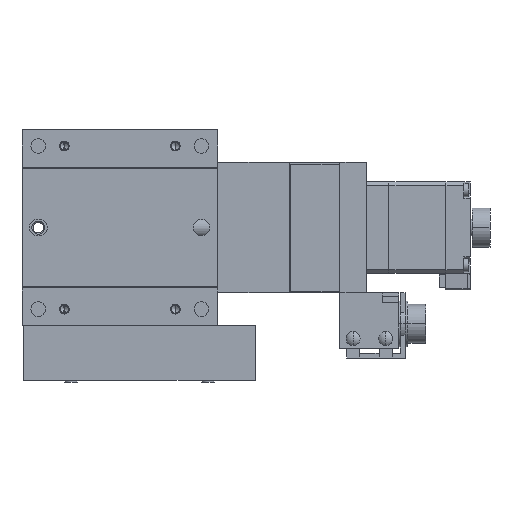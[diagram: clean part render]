
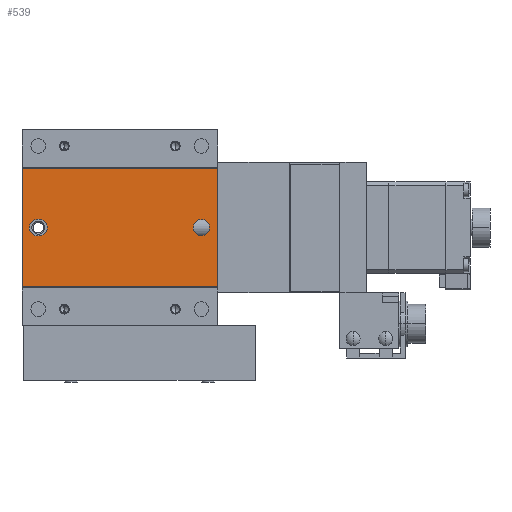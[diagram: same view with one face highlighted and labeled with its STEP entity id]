
A CAD part, front view. The second image highlights one B-rep face of the part: STEP entity #539.
In plain terms, the highlighted planar face has unit normal (0, -1, 0).
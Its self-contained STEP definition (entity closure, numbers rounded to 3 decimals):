
#539=ADVANCED_FACE('',(#1439,#1440,#1441),#1442,.F.);
#1439=FACE_BOUND('',#2816,.T.);
#1440=FACE_OUTER_BOUND('',#2817,.T.);
#1441=FACE_BOUND('',#2818,.T.);
#1442=PLANE('',#2819);
#2816=EDGE_LOOP('',(#5470,#5471,#5472,#5473));
#2817=EDGE_LOOP('',(#5474,#5475,#5476,#5477));
#2818=EDGE_LOOP('',(#5478,#5479,#5480));
#2819=AXIS2_PLACEMENT_3D('',#5481,#5482,#5483);
#5470=ORIENTED_EDGE('',*,*,#9508,.F.);
#5471=ORIENTED_EDGE('',*,*,#9509,.F.);
#5472=ORIENTED_EDGE('',*,*,#9510,.F.);
#5473=ORIENTED_EDGE('',*,*,#9511,.F.);
#5474=ORIENTED_EDGE('',*,*,#9493,.T.);
#5475=ORIENTED_EDGE('',*,*,#9512,.F.);
#5476=ORIENTED_EDGE('',*,*,#9513,.F.);
#5477=ORIENTED_EDGE('',*,*,#9514,.T.);
#5478=ORIENTED_EDGE('',*,*,#9398,.F.);
#5479=ORIENTED_EDGE('',*,*,#9397,.F.);
#5480=ORIENTED_EDGE('',*,*,#9515,.F.);
#5481=CARTESIAN_POINT('',(30.0,0.35,18.15));
#5482=DIRECTION('',(-0.0,1.0,0.));
#5483=DIRECTION('',(1.0,0.0,0.0));
#9397=EDGE_CURVE('',#11339,#11341,#11342,.F.);
#9398=EDGE_CURVE('',#11341,#11335,#11343,.F.);
#9493=EDGE_CURVE('',#11520,#11518,#11521,.T.);
#9508=EDGE_CURVE('',#11548,#11549,#11550,.F.);
#9509=EDGE_CURVE('',#11551,#11548,#11552,.T.);
#9510=EDGE_CURVE('',#11553,#11551,#11554,.F.);
#9511=EDGE_CURVE('',#11549,#11553,#11555,.T.);
#9512=EDGE_CURVE('',#11556,#11518,#11557,.T.);
#9513=EDGE_CURVE('',#11558,#11556,#11559,.T.);
#9514=EDGE_CURVE('',#11558,#11520,#11560,.T.);
#9515=EDGE_CURVE('',#11335,#11339,#11561,.F.);
#11335=VERTEX_POINT('',#14312);
#11339=VERTEX_POINT('',#14317);
#11341=VERTEX_POINT('',#14320);
#11342=CIRCLE('',#14321,2.5);
#11343=CIRCLE('',#14322,2.5);
#11518=VERTEX_POINT('',#14552);
#11520=VERTEX_POINT('',#14555);
#11521=LINE('',#14556,#14557);
#11548=VERTEX_POINT('',#14598);
#11549=VERTEX_POINT('',#14599);
#11550=CIRCLE('',#14600,2.5);
#11551=VERTEX_POINT('',#14601);
#11552=LINE('',#14602,#14603);
#11553=VERTEX_POINT('',#14604);
#11554=CIRCLE('',#14605,2.5);
#11555=LINE('',#14606,#14607);
#11556=VERTEX_POINT('',#14608);
#11557=LINE('',#14609,#14610);
#11558=VERTEX_POINT('',#14611);
#11559=LINE('',#14612,#14613);
#11560=LINE('',#14614,#14615);
#11561=CIRCLE('',#14616,2.5);
#14312=CARTESIAN_POINT('',(22.5,0.35,0.));
#14317=CARTESIAN_POINT('',(27.5,0.35,0.));
#14320=CARTESIAN_POINT('',(25.0,0.35,2.5));
#14321=AXIS2_PLACEMENT_3D('',#17903,#17904,#17905);
#14322=AXIS2_PLACEMENT_3D('',#17906,#17907,#17908);
#14552=CARTESIAN_POINT('',(-30.0,0.35,-18.15));
#14555=CARTESIAN_POINT('',(-30.0,0.35,18.15));
#14556=CARTESIAN_POINT('',(-30.0,0.35,18.15));
#14557=VECTOR('',#18079,1000.0);
#14598=CARTESIAN_POINT('',(-25.25,0.35,2.5));
#14599=CARTESIAN_POINT('',(-25.25,0.35,-2.5));
#14600=AXIS2_PLACEMENT_3D('',#18094,#18095,#18096);
#14601=CARTESIAN_POINT('',(-24.75,0.35,2.5));
#14602=CARTESIAN_POINT('',(30.0,0.35,2.5));
#14603=VECTOR('',#18097,1000.0);
#14604=CARTESIAN_POINT('',(-24.75,0.35,-2.5));
#14605=AXIS2_PLACEMENT_3D('',#18098,#18099,#18100);
#14606=CARTESIAN_POINT('',(30.0,0.35,-2.5));
#14607=VECTOR('',#18101,1000.0);
#14608=CARTESIAN_POINT('',(30.0,0.35,-18.15));
#14609=CARTESIAN_POINT('',(30.0,0.35,-18.15));
#14610=VECTOR('',#18102,1000.0);
#14611=CARTESIAN_POINT('',(30.0,0.35,18.15));
#14612=CARTESIAN_POINT('',(30.0,0.35,18.15));
#14613=VECTOR('',#18103,1000.0);
#14614=CARTESIAN_POINT('',(30.0,0.35,18.15));
#14615=VECTOR('',#18104,1000.0);
#14616=AXIS2_PLACEMENT_3D('',#18105,#18106,#18107);
#17903=CARTESIAN_POINT('',(25.0,0.35,0.0));
#17904=DIRECTION('',(0.0,1.0,0.));
#17905=DIRECTION('',(0.0,0.,1.0));
#17906=CARTESIAN_POINT('',(25.0,0.35,0.0));
#17907=DIRECTION('',(0.0,1.0,0.));
#17908=DIRECTION('',(0.0,0.,1.0));
#18079=DIRECTION('',(0.0,0.,-1.0));
#18094=CARTESIAN_POINT('',(-25.25,0.35,0.));
#18095=DIRECTION('',(0.0,1.0,0.));
#18096=DIRECTION('',(0.0,0.,1.0));
#18097=DIRECTION('',(-1.0,0.0,0.0));
#18098=CARTESIAN_POINT('',(-24.75,0.35,0.));
#18099=DIRECTION('',(0.0,1.0,0.));
#18100=DIRECTION('',(0.0,0.,1.0));
#18101=DIRECTION('',(1.0,0.0,0.0));
#18102=DIRECTION('',(-1.0,0.0,0.0));
#18103=DIRECTION('',(0.0,0.,-1.0));
#18104=DIRECTION('',(-1.0,0.0,0.0));
#18105=CARTESIAN_POINT('',(25.0,0.35,0.0));
#18106=DIRECTION('',(0.0,1.0,0.));
#18107=DIRECTION('',(0.0,0.,1.0));
